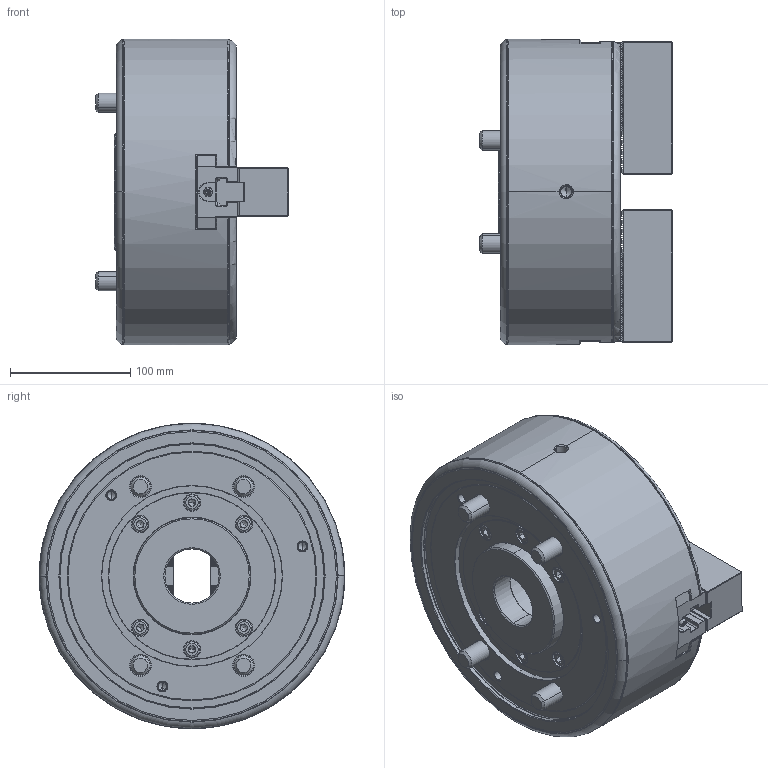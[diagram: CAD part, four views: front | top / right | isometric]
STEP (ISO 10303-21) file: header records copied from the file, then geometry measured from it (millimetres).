
FILE_DESCRIPTION (( 'STEP AP203' ), '1' );
FILE_NAME ('DEV-BRT10-HOL.STEP', '2024-03-12T08:26:24', ( '' ), ( '' ), 'SwSTEP 2.0', 'SolidWorks 2022', '' );
FILE_SCHEMA (( 'CONFIG_CONTROL_DESIGN' ));
Length unit declared in the file: millimetre
Products named in the file (9): 61P848284-0(SJ10B1) 61P314663-3(SJ10A1T) ソフトジョー_]SJ10A1T-ﾃﾞﾌｫﾙﾄ-Design; Bアナツキ M12×30; 61P806167-0(BBT210) 61P367863-0(BB210) カバー_BBT210-ﾃﾞﾌｫﾙﾄ; Bアナツキ M16×100・M16×120_M16×100-ﾃﾞﾌｫﾙﾄ; BR10-Nishi05 Tナット_61P417262-1 B-210 Tﾅｯﾄ-ﾃﾞﾌｫﾙﾄ; DEV-BRT10-HOL; Part3^DEV-BRT10-クミタテ; Bアナツキボタン M6×10_デフォルト; BR10-Nishi02 ドローナット_ﾃﾞﾌｫﾙﾄ(外観用)
Assembly tree (19 placements, depth 2):
  DEV-BRT10-HOL
    BR10-Nishi02 ドローナット_ﾃﾞﾌｫﾙﾄ(外観用)
    61P848284-0(SJ10B1) 61P314663-3(SJ10A1T) ソフトジョー_]SJ10A1T-ﾃﾞﾌｫﾙﾄ-Design  x2
    BR10-Nishi05 Tナット_61P417262-1 B-210 Tﾅｯﾄ-ﾃﾞﾌｫﾙﾄ  x2
    61P806167-0(BBT210) 61P367863-0(BB210) カバー_BBT210-ﾃﾞﾌｫﾙﾄ
    Bアナツキ M12×30  x4
    Bアナツキボタン M6×10_デフォルト  x4
    Bアナツキ M16×100・M16×120_M16×100-ﾃﾞﾌｫﾙﾄ  x4
    Part3^DEV-BRT10-クミタテ
Bounding box: 160.2 x 254 x 254 mm (x, y, z)
Volume: 4682336.5 mm3; surface area: 426452.2 mm2
Topology: 19 solids, 23 shells, 3238 faces, 8789 edges, 5662 vertices
Faces by surface type: plane 2376, cylinder 377, cone 300, bspline 98, torus 77, sphere 10
Entity records: 82229 total; most frequent: CARTESIAN_POINT 18636, ORIENTED_EDGE 13404, DIRECTION 12193, EDGE_CURVE 6702, LINE 5315, VECTOR 5315, VERTEX_POINT 4359, AXIS2_PLACEMENT_3D 3439
